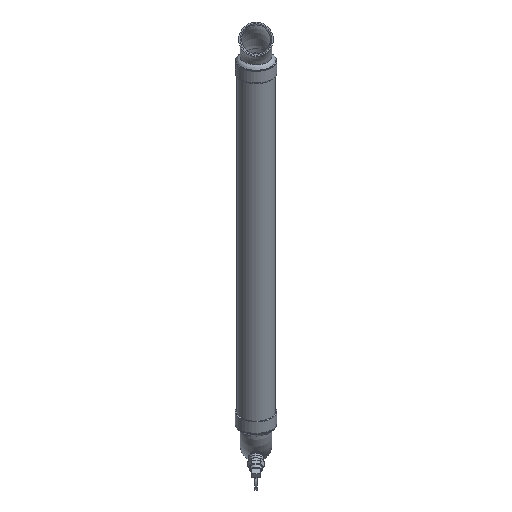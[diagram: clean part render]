
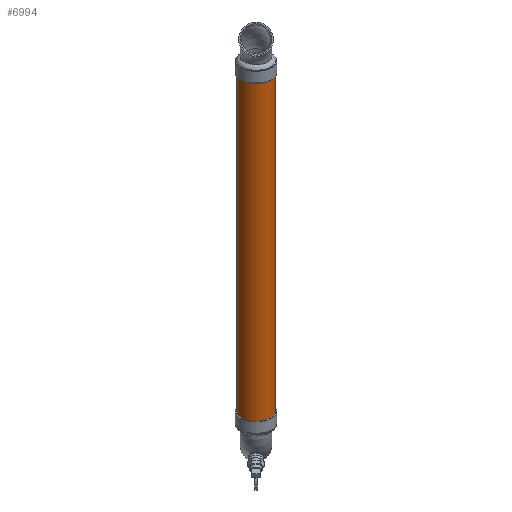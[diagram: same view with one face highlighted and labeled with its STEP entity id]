
A CAD part, front view. The second image highlights one B-rep face of the part: STEP entity #6994.
In plain terms, the highlighted cylindrical face has radius 21.387 mm (diameter 42.774 mm), a full revolution.
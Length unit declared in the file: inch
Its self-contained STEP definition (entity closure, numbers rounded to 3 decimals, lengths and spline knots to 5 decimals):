
#6967=CARTESIAN_POINT('',(0.0,0.0,0.0));
#6968=DIRECTION('',(0.0,0.0,1.0));
#6969=DIRECTION('',(-1.0,0.0,0.0));
#6970=AXIS2_PLACEMENT_3D('',#6967,#6968,#6969);
#6971=CYLINDRICAL_SURFACE('',#6970,0.842);
#6972=CARTESIAN_POINT('',(0.842,0.,18.163));
#6973=VERTEX_POINT('',#6972);
#6974=CARTESIAN_POINT('',(0.0,0.0,18.163));
#6975=DIRECTION('',(0.0,0.0,-1.0));
#6976=DIRECTION('',(-1.0,0.0,0.0));
#6977=AXIS2_PLACEMENT_3D('',#6974,#6975,#6976);
#6978=CIRCLE('',#6977,0.842);
#6979=EDGE_CURVE('',#6973,#6973,#6978,.T.);
#6980=ORIENTED_EDGE('',*,*,#6979,.T.);
#6981=EDGE_LOOP('',(#6980));
#6982=FACE_OUTER_BOUND('',#6981,.T.);
#6983=CARTESIAN_POINT('',(0.842,0.,0.0));
#6984=VERTEX_POINT('',#6983);
#6985=CARTESIAN_POINT('',(0.0,0.0,0.0));
#6986=DIRECTION('',(0.0,0.0,-1.0));
#6987=DIRECTION('',(-1.0,0.0,0.0));
#6988=AXIS2_PLACEMENT_3D('',#6985,#6986,#6987);
#6989=CIRCLE('',#6988,0.842);
#6990=EDGE_CURVE('',#6984,#6984,#6989,.T.);
#6991=ORIENTED_EDGE('',*,*,#6990,.F.);
#6992=EDGE_LOOP('',(#6991));
#6993=FACE_BOUND('',#6992,.T.);
#6994=ADVANCED_FACE('',(#6982,#6993),#6971,.T.);
